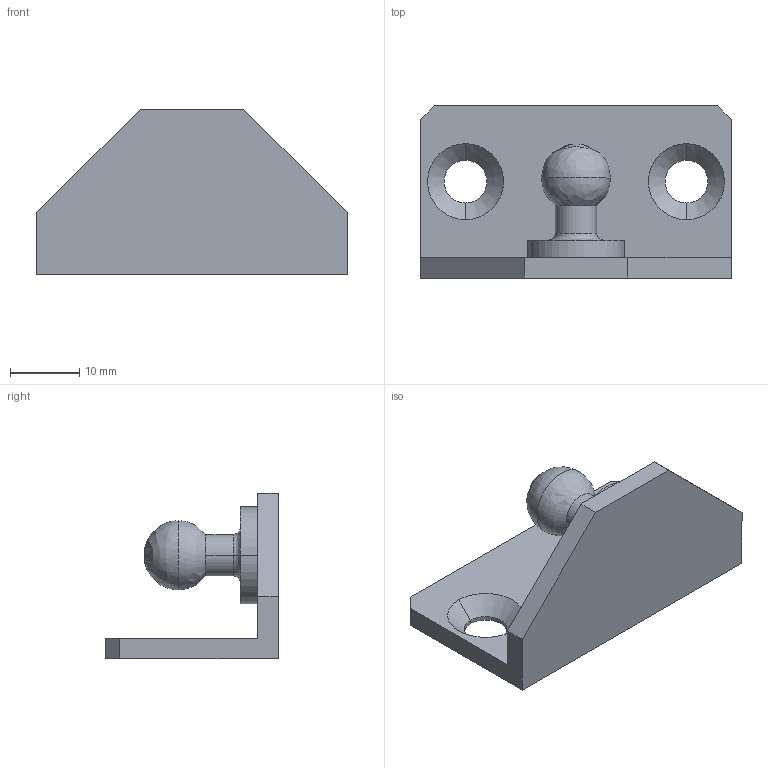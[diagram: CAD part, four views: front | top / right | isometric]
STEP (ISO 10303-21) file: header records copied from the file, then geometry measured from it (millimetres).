
FILE_DESCRIPTION (( 'STEP AP214' ), '1' );
FILE_NAME ('15.BS.A300.STEP', '2017-10-23T08:58:58', ( '' ), ( '' ), 'SwSTEP 2.0', 'SolidWorks 2016', '' );
FILE_SCHEMA (( 'AUTOMOTIVE_DESIGN' ));
Length unit declared in the file: millimetre
Products named in the file (1): 15.BS.A300
Bounding box: 45 x 25 x 24 mm (x, y, z)
Volume: 6240.1 mm3; surface area: 4575.6 mm2
Topology: 1 solids, 1 shells, 30 faces, 74 edges, 46 vertices
Faces by surface type: plane 14, cylinder 8, bspline 4, cone 4
Entity records: 976 total; most frequent: CARTESIAN_POINT 245, DIRECTION 144, ORIENTED_EDGE 140, EDGE_CURVE 70, AXIS2_PLACEMENT_3D 51, VERTEX_POINT 46, LINE 42, VECTOR 42
